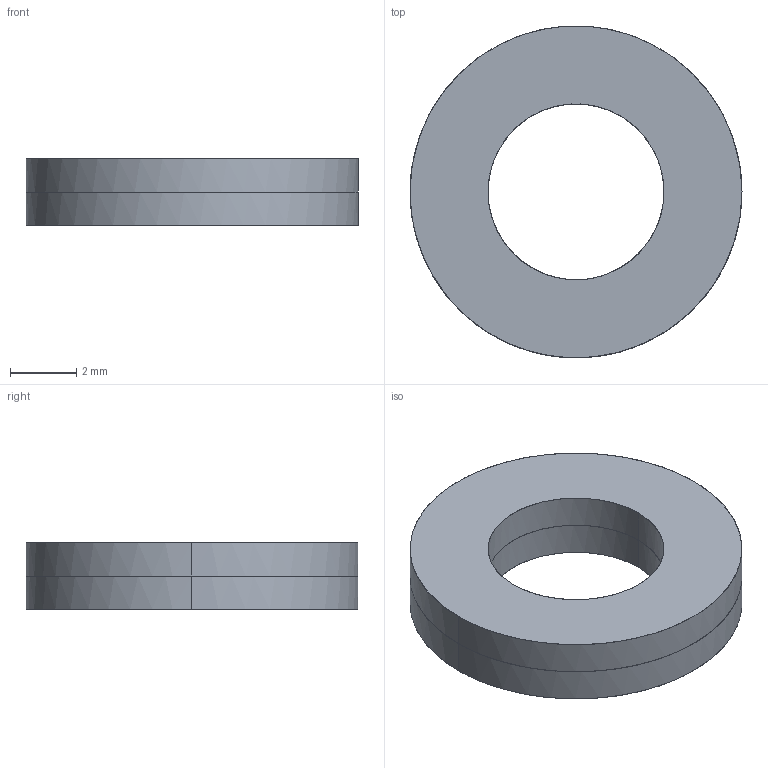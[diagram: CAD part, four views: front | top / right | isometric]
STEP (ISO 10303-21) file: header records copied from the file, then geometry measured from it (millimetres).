
FILE_DESCRIPTION(/* description */ (''),/* implementation_level */ '2;1');
FILE_NAME(/* name */ '7.x-cart#7.3#PWF5',/* time_stamp */ '2014-12-01T20:17:29+01:00',/* author */ (''),/* organization */ (''),/* preprocessor_version */ 'ST-DEVELOPER v14',/* originating_system */ '',/* authorisation */ '');
FILE_SCHEMA (('AUTOMOTIVE_DESIGN'));
Length unit declared in the file: millimetre
Products named in the file (2): Document; washer DIN125-like, form A, M5
Assembly tree (2 placements, depth 2):
  Document
    washer DIN125-like, form A, M5  x2
Bounding box: 10 x 9.99 x 2 mm (x, y, z)
Surface area: 322.5 mm2 (no closed solid volume)
Topology: 0 solids, 12 shells, 12 faces, 40 edges, 40 vertices
Faces by surface type: bspline 8, plane 4
Entity records: 551 total; most frequent: CARTESIAN_POINT 259, B_SPLINE_CURVE_WITH_KNOTS 24, ORIENTED_EDGE 20, PCURVE 20, DEFINITIONAL_REPRESENTATION 20, SURFACE_CURVE 20, EDGE_CURVE 20, VERTEX_POINT 20
